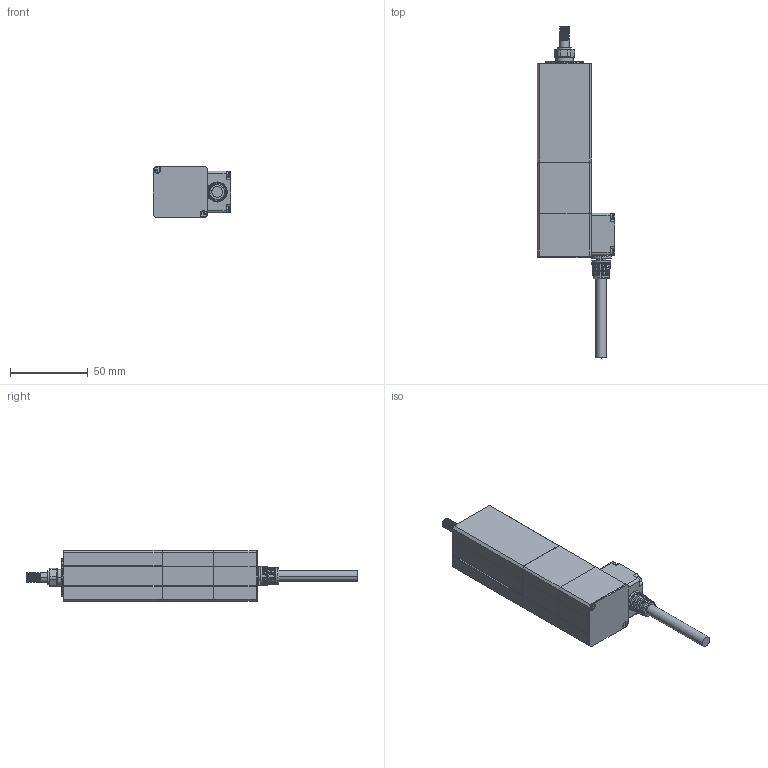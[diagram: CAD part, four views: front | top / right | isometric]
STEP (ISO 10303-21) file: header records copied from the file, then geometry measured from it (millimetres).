
FILE_DESCRIPTION (( 'STEP AP214' ), '1' );
FILE_NAME ('RCEA-3M-050-C-W-F_潠眢耀倰V1.0_20250311.STEP', '2025-03-11T06:21:26', ( '' ), ( '' ), 'SwSTEP 2.0', 'SolidWorks 2020', '' );
FILE_SCHEMA (( 'AUTOMOTIVE_DESIGN' ));
Length unit declared in the file: millimetre
Products named in the file (4): Group3^RCEA-3M-050-C-W-F_潠眢耀倰V1.0_20250311; Group1^RCEA-3M-050-C-W-F_潠眢耀倰V1.0_20250311; Group4^RCEA-3M-050-C-W-F_潠眢耀倰V1.0_20250311; RCEA-3M-050-C-W-F_潠眢耀倰V1.0_20250311
Assembly tree (3 placements, depth 2):
  RCEA-3M-050-C-W-F_潠眢耀倰V1.0_20250311
    Group1^RCEA-3M-050-C-W-F_潠眢耀倰V1.0_20250311
    Group3^RCEA-3M-050-C-W-F_潠眢耀倰V1.0_20250311
    Group4^RCEA-3M-050-C-W-F_潠眢耀倰V1.0_20250311
Bounding box: 49.85 x 213.5 x 33 mm (x, y, z)
Volume: 129536.2 mm3; surface area: 40906.1 mm2
Topology: 16 solids, 20 shells, 811 faces, 2081 edges, 1328 vertices
Faces by surface type: plane 325, cylinder 300, cone 118, bspline 37, torus 31
Entity records: 37332 total; most frequent: CARTESIAN_POINT 8678, ORIENTED_EDGE 4110, DIRECTION 4031, EDGE_CURVE 2055, AXIS2_PLACEMENT_3D 1458, VERTEX_POINT 1328, VECTOR 1115, LINE 1115
